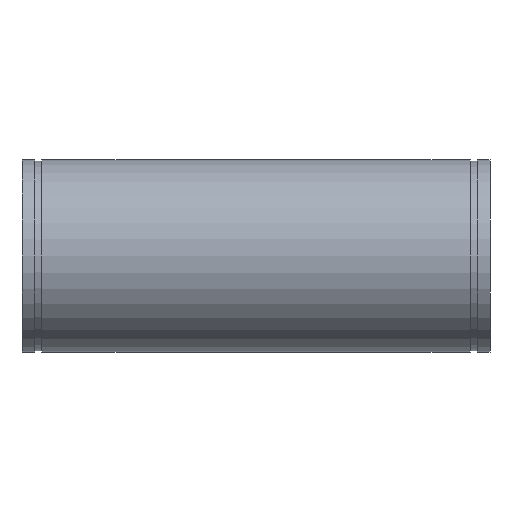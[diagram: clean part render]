
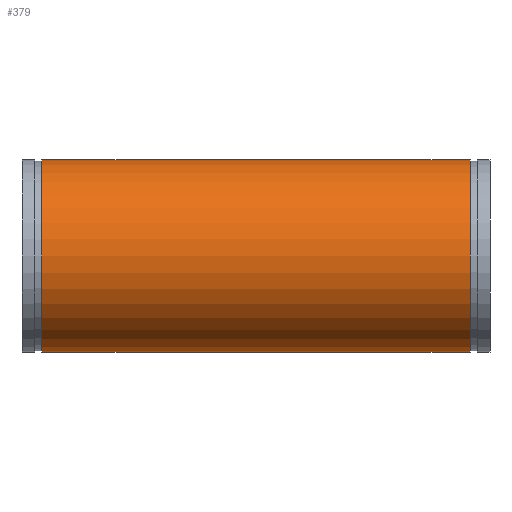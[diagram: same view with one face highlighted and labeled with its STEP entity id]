
A CAD part, left-side view. The second image highlights one B-rep face of the part: STEP entity #379.
In plain terms, the highlighted cylindrical face has radius 177.8 mm (diameter 355.6 mm), a full revolution.
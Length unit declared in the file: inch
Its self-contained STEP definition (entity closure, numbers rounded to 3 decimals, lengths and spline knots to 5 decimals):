
#45=ELLIPSE('',#439,18.29188,7.);
#46=ELLIPSE('',#440,18.29188,7.);
#47=ELLIPSE('',#441,7.57675,7.);
#57=LINE('',#676,#68);
#68=VECTOR('',#544,7.);
#79=CYLINDRICAL_SURFACE('',#438,7.);
#90=FACE_BOUND('',#131,.T.);
#105=FACE_OUTER_BOUND('',#130,.T.);
#130=EDGE_LOOP('',(#292,#293,#294,#295));
#131=EDGE_LOOP('',(#296,#297,#298));
#154=CIRCLE('',#426,7.);
#155=CIRCLE('',#428,7.);
#181=VERTEX_POINT('',#653);
#182=VERTEX_POINT('',#656);
#189=VERTEX_POINT('',#677);
#190=VERTEX_POINT('',#678);
#191=VERTEX_POINT('',#680);
#218=EDGE_CURVE('',#181,#181,#154,.T.);
#219=EDGE_CURVE('',#182,#182,#155,.T.);
#228=EDGE_CURVE('',#181,#182,#57,.T.);
#229=EDGE_CURVE('',#189,#190,#45,.T.);
#230=EDGE_CURVE('',#190,#191,#46,.T.);
#231=EDGE_CURVE('',#191,#189,#47,.T.);
#292=ORIENTED_EDGE('',*,*,#218,.T.);
#293=ORIENTED_EDGE('',*,*,#228,.T.);
#294=ORIENTED_EDGE('',*,*,#219,.T.);
#295=ORIENTED_EDGE('',*,*,#228,.F.);
#296=ORIENTED_EDGE('',*,*,#229,.T.);
#297=ORIENTED_EDGE('',*,*,#230,.T.);
#298=ORIENTED_EDGE('',*,*,#231,.T.);
#379=ADVANCED_FACE('',(#105,#90),#79,.T.);
#426=AXIS2_PLACEMENT_3D('',#654,#516,#517);
#428=AXIS2_PLACEMENT_3D('',#657,#520,#521);
#438=AXIS2_PLACEMENT_3D('',#675,#542,#543);
#439=AXIS2_PLACEMENT_3D('',#679,#545,#546);
#440=AXIS2_PLACEMENT_3D('',#681,#547,#548);
#441=AXIS2_PLACEMENT_3D('',#682,#549,#550);
#516=DIRECTION('center_axis',(0.,1.,0.));
#517=DIRECTION('ref_axis',(1.,0.,0.));
#520=DIRECTION('center_axis',(0.,-1.,0.));
#521=DIRECTION('ref_axis',(1.,0.,0.));
#542=DIRECTION('center_axis',(0.,-1.,0.));
#543=DIRECTION('ref_axis',(1.,0.,0.));
#544=DIRECTION('',(0.,1.,0.));
#545=DIRECTION('center_axis',(-0.924,0.383,0.));
#546=DIRECTION('ref_axis',(-0.383,-0.924,0.));
#547=DIRECTION('center_axis',(-0.924,0.383,0.));
#548=DIRECTION('ref_axis',(-0.383,-0.924,0.));
#549=DIRECTION('center_axis',(-0.383,-0.924,0.));
#550=DIRECTION('ref_axis',(0.924,-0.383,0.));
#653=CARTESIAN_POINT('',(-7.,-6.062,0.));
#654=CARTESIAN_POINT('Origin',(0.,-6.062,0.));
#656=CARTESIAN_POINT('',(-7.,25.062,0.));
#657=CARTESIAN_POINT('Origin',(0.,25.062,0.));
#675=CARTESIAN_POINT('Origin',(0.,26.5,0.));
#676=CARTESIAN_POINT('',(-7.,26.5,0.));
#677=CARTESIAN_POINT('',(0.,0.,7.));
#678=CARTESIAN_POINT('',(7.,16.89949,0.));
#679=CARTESIAN_POINT('Origin',(0.,0.,0.));
#680=CARTESIAN_POINT('',(0.,0.,-7.));
#681=CARTESIAN_POINT('Origin',(0.,0.,0.));
#682=CARTESIAN_POINT('Origin',(0.,0.,0.));
